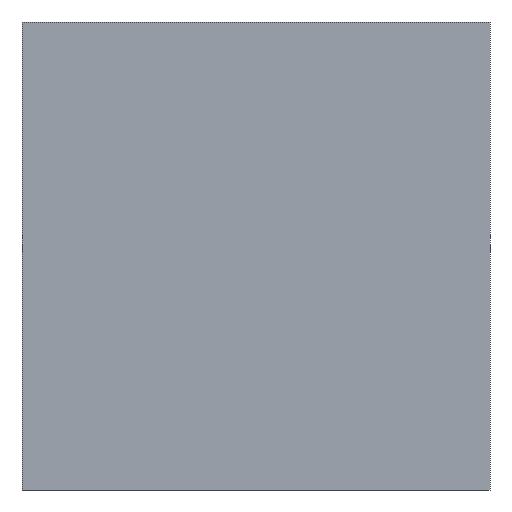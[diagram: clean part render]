
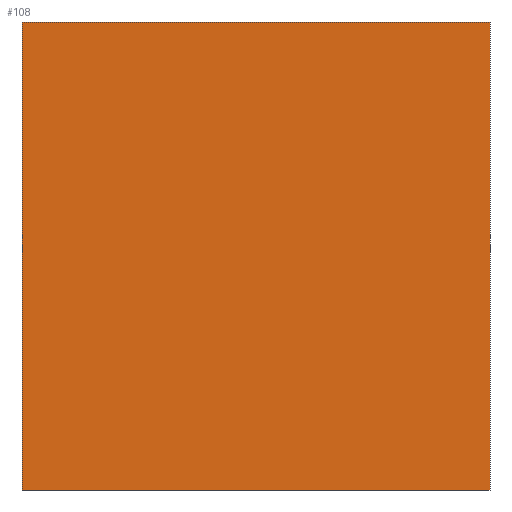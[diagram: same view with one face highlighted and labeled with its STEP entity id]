
A CAD part, front view. The second image highlights one B-rep face of the part: STEP entity #108.
In plain terms, the highlighted planar face has unit normal (0, -1, 0).
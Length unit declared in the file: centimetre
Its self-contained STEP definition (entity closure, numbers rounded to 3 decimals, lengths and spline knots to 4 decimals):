
#8 = LINE ( 'NONE', #286, #112 ) ;
#12 = DIRECTION ( 'NONE',  ( 1., 0., 0. ) ) ;
#56 = DIRECTION ( 'NONE',  ( 0., 1., 0. ) ) ;
#108 = ADVANCED_FACE ( 'NONE', ( #468 ), #116, .F. ) ;
#112 = VECTOR ( 'NONE', #668, 100. ) ;
#113 = EDGE_CURVE ( 'NONE', #548, #194, #8, .T. ) ;
#116 = PLANE ( 'NONE',  #147 ) ;
#147 = AXIS2_PLACEMENT_3D ( 'NONE', #350, #56, #402 ) ;
#156 = VECTOR ( 'NONE', #590, 100. ) ;
#178 = CARTESIAN_POINT ( 'NONE',  ( 0., 0., 0. ) ) ;
#194 = VERTEX_POINT ( 'NONE', #414 ) ;
#239 = LINE ( 'NONE', #644, #156 ) ;
#243 = CARTESIAN_POINT ( 'NONE',  ( 0., 0., 0. ) ) ;
#278 = LINE ( 'NONE', #507, #662 ) ;
#281 = LINE ( 'NONE', #178, #356 ) ;
#286 = CARTESIAN_POINT ( 'NONE',  ( 0., 0., 1000. ) ) ;
#301 = EDGE_CURVE ( 'NONE', #548, #302, #239, .T. ) ;
#302 = VERTEX_POINT ( 'NONE', #243 ) ;
#350 = CARTESIAN_POINT ( 'NONE',  ( 0., 0., 1000. ) ) ;
#356 = VECTOR ( 'NONE', #12, 100. ) ;
#397 = CARTESIAN_POINT ( 'NONE',  ( 0., 0., 1000. ) ) ;
#402 = DIRECTION ( 'NONE',  ( 0., 0., 1. ) ) ;
#414 = CARTESIAN_POINT ( 'NONE',  ( 1000., 0., 1000. ) ) ;
#460 = EDGE_LOOP ( 'NONE', ( #664, #625, #554, #632 ) ) ;
#468 = FACE_OUTER_BOUND ( 'NONE', #460, .T. ) ;
#507 = CARTESIAN_POINT ( 'NONE',  ( 1000., 0., 1000. ) ) ;
#513 = EDGE_CURVE ( 'NONE', #194, #617, #278, .T. ) ;
#516 = DIRECTION ( 'NONE',  ( 0., 0., -1. ) ) ;
#541 = EDGE_CURVE ( 'NONE', #302, #617, #281, .T. ) ;
#548 = VERTEX_POINT ( 'NONE', #397 ) ;
#554 = ORIENTED_EDGE ( 'NONE', *, *, #113, .F. ) ;
#590 = DIRECTION ( 'NONE',  ( 0., 0., -1. ) ) ;
#617 = VERTEX_POINT ( 'NONE', #674 ) ;
#625 = ORIENTED_EDGE ( 'NONE', *, *, #513, .F. ) ;
#632 = ORIENTED_EDGE ( 'NONE', *, *, #301, .T. ) ;
#644 = CARTESIAN_POINT ( 'NONE',  ( 0., 0., 1000. ) ) ;
#662 = VECTOR ( 'NONE', #516, 100. ) ;
#664 = ORIENTED_EDGE ( 'NONE', *, *, #541, .T. ) ;
#668 = DIRECTION ( 'NONE',  ( 1., 0., 0. ) ) ;
#674 = CARTESIAN_POINT ( 'NONE',  ( 1000., 0., 0. ) ) ;
